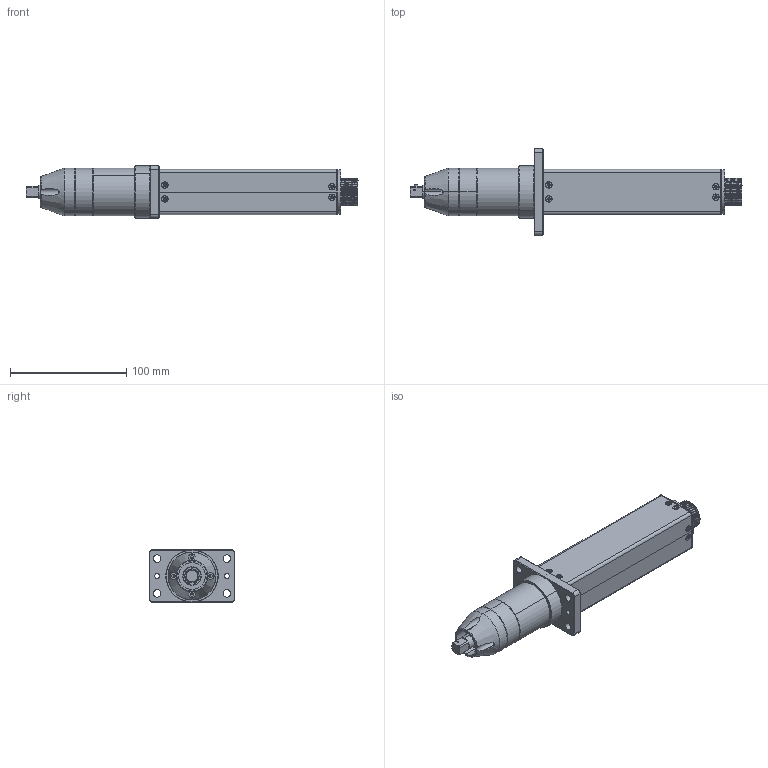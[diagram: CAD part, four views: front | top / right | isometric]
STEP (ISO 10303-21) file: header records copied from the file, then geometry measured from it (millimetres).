
FILE_DESCRIPTION (( 'STEP AP203' ), '1' );
FILE_NAME ('EC,ECT50204-R,50304-R,50504-R,50604-R.STEP', '2021-12-23T06:01:31', ( '' ), ( '' ), 'SwSTEP 2.0', 'SolidWorks 2020', '' );
FILE_SCHEMA (( 'CONFIG_CONTROL_DESIGN' ));
Length unit declared in the file: millimetre
Products named in the file (1): EC,ECT50204-R,50304-R,50504-R,50604-R
Bounding box: 285.75 x 74 x 45 mm (x, y, z)
Surface area: 54928.1 mm2 (no closed solid volume)
Topology: 0 solids, 59 shells, 687 faces, 2450 edges, 1755 vertices
Faces by surface type: plane 314, cylinder 211, cone 157, bspline 5
Entity records: 29729 total; most frequent: CARTESIAN_POINT 10081, DIRECTION 3855, ORIENTED_EDGE 3679, EDGE_CURVE 2442, VERTEX_POINT 1754, AXIS2_PLACEMENT_3D 1406, VECTOR 1043, LINE 1043
